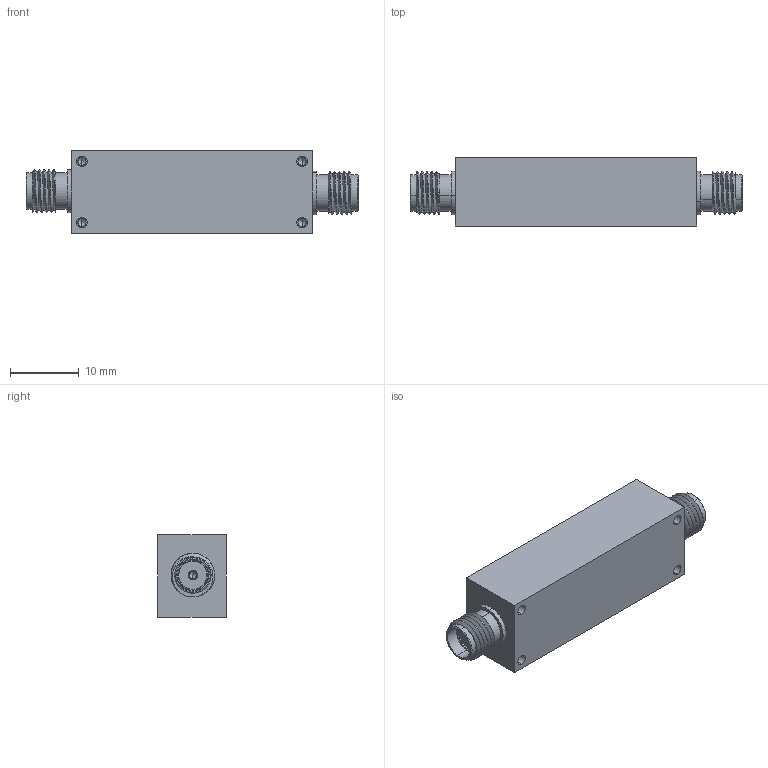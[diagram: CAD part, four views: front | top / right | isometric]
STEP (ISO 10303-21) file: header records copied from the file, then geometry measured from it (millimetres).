
FILE_DESCRIPTION (( 'STEP AP214' ), '1' );
FILE_NAME ('3D Model.STEP', '2024-07-17T14:04:50', ( '' ), ( '' ), 'SwSTEP 2.0', 'SolidWorks 2023', '' );
FILE_SCHEMA (( 'AUTOMOTIVE_DESIGN' ));
Length unit declared in the file: inch
Products named in the file (3): Housing; PF80-001 SMA PRESS FIT MOUNT JACK CONNECTOR MDH_PF80-001; 3D Model
Assembly tree (3 placements, depth 2):
  3D Model
    Housing
    PF80-001 SMA PRESS FIT MOUNT JACK CONNECTOR MDH_PF80-001  x2
Bounding box: 48.26 x 9.91 x 11.94 mm (x, y, z)
Volume: 4530.8 mm3; surface area: 2588.4 mm2
Topology: 3 solids, 5 shells, 1046 faces, 3002 edges, 1974 vertices
Faces by surface type: cylinder 572, torus 420, plane 34, cone 16, bspline 4
Entity records: 25287 total; most frequent: CARTESIAN_POINT 11420, ORIENTED_EDGE 3054, DIRECTION 2885, EDGE_CURVE 1527, AXIS2_PLACEMENT_3D 1284, VERTEX_POINT 1009, CIRCLE 740, EDGE_LOOP 556
